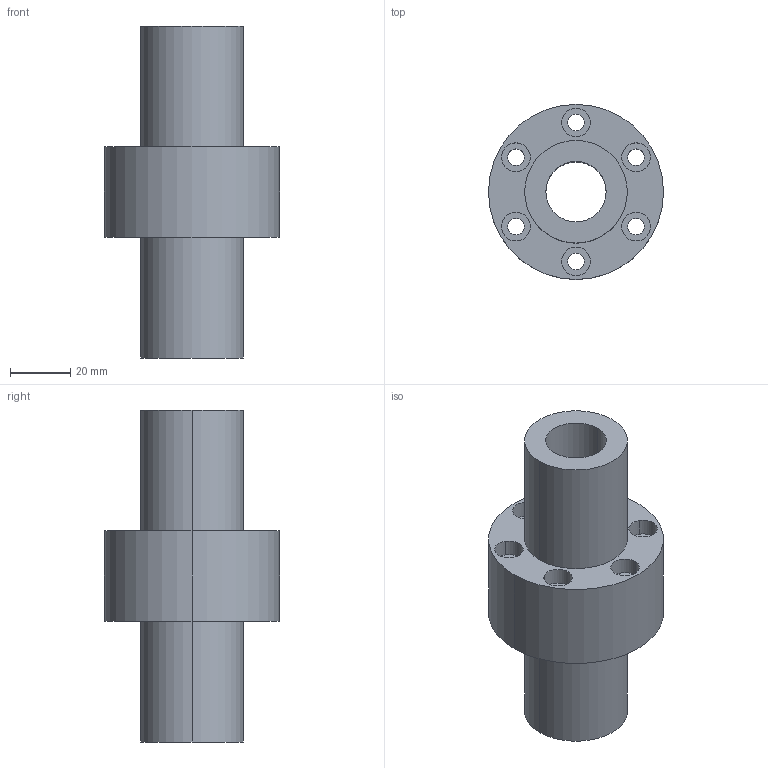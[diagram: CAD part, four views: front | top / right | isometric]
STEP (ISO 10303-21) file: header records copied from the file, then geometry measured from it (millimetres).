
FILE_DESCRIPTION((''),'2;1');
FILE_NAME('20-5T4','2008-04-03T',('yanyu'),(''),'PRO/ENGINEER BY PARAMETRIC TECHNOLOGY CORPORATION, 2005070','PRO/ENGINEER BY PARAMETRIC TECHNOLOGY CORPORATION, 2005070','');
FILE_SCHEMA(('CONFIG_CONTROL_DESIGN'));
Length unit declared in the file: millimetre
Products named in the file (1): 20-5T4
Bounding box: 58 x 58 x 110 mm (x, y, z)
Volume: 111506.9 mm3; surface area: 28818.6 mm2
Topology: 1 solids, 1 shells, 42 faces, 100 edges, 68 vertices
Faces by surface type: cylinder 32, plane 10
Entity records: 1330 total; most frequent: DIRECTION 252, CARTESIAN_POINT 210, ORIENTED_EDGE 200, AXIS2_PLACEMENT_3D 110, EDGE_CURVE 100, VERTEX_POINT 68, CIRCLE 68, EDGE_LOOP 64
